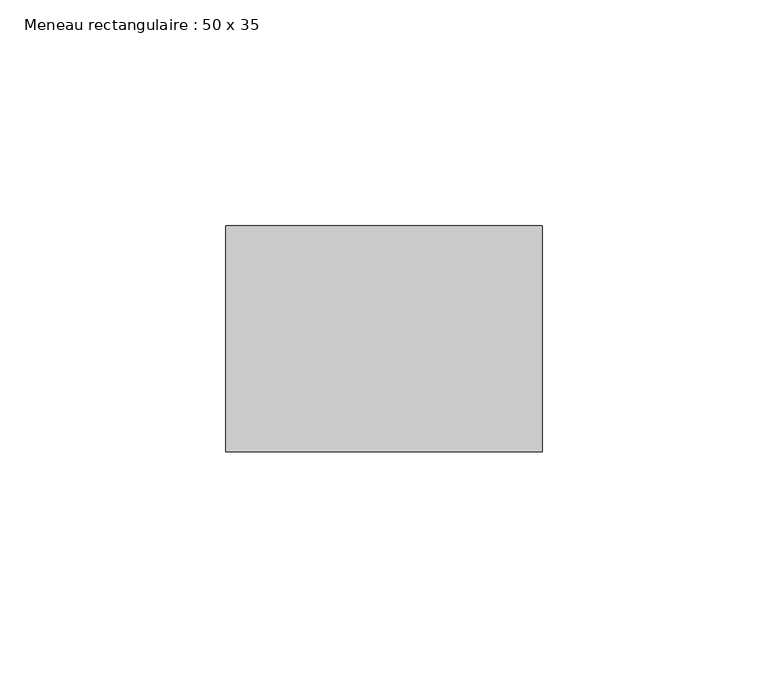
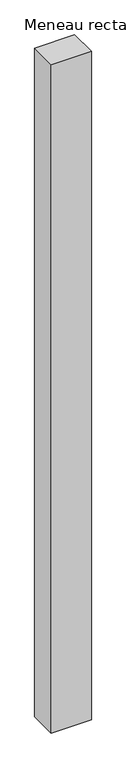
"""IFC4 building model written with IfcOpenShell, lengths in millimetres: member geometry, Meneau rectangulaire : 50 x 35."""

from ifc_helpers import new_model, si_unit, frame, origin, place, context, project, spatial, polyline, outline, extrude, source, transform, mapped, element, save


def meneau_rectangulaire_50_x_35_a1cd71e2(model_context):
    return source(origin(), model_context, "Body", "SweptSolid", [
        extrude(outline(polyline([(0.0, 0.0), (0.0, -50.0), (-70.0, -50.0), (-70.0, 0.0), (0.0, 0.0)])), frame((0.0, 0.0, -1234.2769057), z_axis=(0.0, 0.0, 1.0), x_axis=(1.0, 0.0, 0.0)), (0.0, 0.0, 1.0), 1234.2769057),
    ])


if __name__ == "__main__":
    model = new_model("IFC4")
    model_context = context("Model", 3, world=origin())
    ifc_project = project(units=[si_unit("LENGTHUNIT", "METRE", prefix="MILLI")], contexts=[model_context])
    site = spatial("IfcSite", under=ifc_project)
    building = spatial("IfcBuilding", under=site)
    placement = place(None, origin())
    meneau_rectangulaire_50_x_35_shape = meneau_rectangulaire_50_x_35_a1cd71e2(model_context)
    element("IfcMember", 1, ObjectType="Meneau rectangulaire : 50 x 35", at=placement, inside=building, context=model_context, shape_type="MappedRepresentation", body=[
        mapped(meneau_rectangulaire_50_x_35_shape, transform((0.0, 0.0, 0.0), x_axis=(1.0, 0.0, 0.0), y_axis=(0.0, 1.0, 0.0), z_axis=(0.0, 0.0, 1.0))),
    ])
    save(model, "model.ifc")
